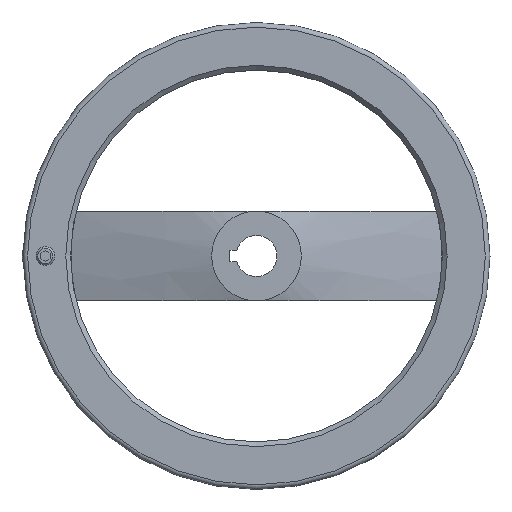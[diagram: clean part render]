
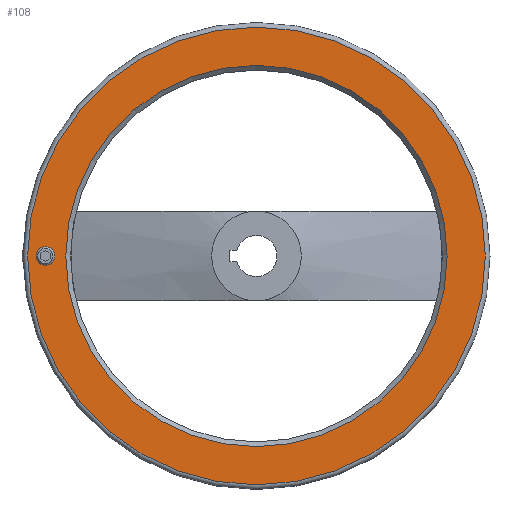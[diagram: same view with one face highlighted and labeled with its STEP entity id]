
A CAD part, left-side view. The second image highlights one B-rep face of the part: STEP entity #108.
In plain terms, the highlighted planar face has unit normal (-1, 0, 0).
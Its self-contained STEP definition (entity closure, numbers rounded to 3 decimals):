
#108 = ADVANCED_FACE( '', ( #197, #198, #199 ), #200, .T. );
#197 = FACE_OUTER_BOUND( '', #339, .T. );
#198 = FACE_BOUND( '', #340, .T. );
#199 = FACE_BOUND( '', #341, .T. );
#200 = PLANE( '', #342 );
#339 = EDGE_LOOP( '', ( #585 ) );
#340 = EDGE_LOOP( '', ( #586 ) );
#341 = EDGE_LOOP( '', ( #587 ) );
#342 = AXIS2_PLACEMENT_3D( '', #588, #589, #590 );
#585 = ORIENTED_EDGE( '', *, *, #709, .T. );
#586 = ORIENTED_EDGE( '', *, *, #677, .T. );
#587 = ORIENTED_EDGE( '', *, *, #707, .F. );
#588 = CARTESIAN_POINT( '', ( 28., -102.056, 0. ) );
#589 = DIRECTION( '', ( -1., 0., 0. ) );
#590 = DIRECTION( '', ( 0., 0., 1. ) );
#677 = EDGE_CURVE( '', #798, #798, #799, .T. );
#707 = EDGE_CURVE( '', #843, #843, #844, .T. );
#709 = EDGE_CURVE( '', #847, #847, #848, .T. );
#798 = VERTEX_POINT( '', #1098 );
#799 = CIRCLE( '', #1099, 5. );
#843 = VERTEX_POINT( '', #1157 );
#844 = CIRCLE( '', #1158, 102.056 );
#847 = VERTEX_POINT( '', #1161 );
#848 = CIRCLE( '', #1162, 122.5 );
#1098 = CARTESIAN_POINT( '', ( 28., 113., -5. ) );
#1099 = AXIS2_PLACEMENT_3D( '', #1222, #1223, #1224 );
#1157 = CARTESIAN_POINT( '', ( 28., 0., 102.056 ) );
#1158 = AXIS2_PLACEMENT_3D( '', #1281, #1282, #1283 );
#1161 = CARTESIAN_POINT( '', ( 28., 0., 122.5 ) );
#1162 = AXIS2_PLACEMENT_3D( '', #1287, #1288, #1289 );
#1222 = CARTESIAN_POINT( '', ( 28., 113., 0. ) );
#1223 = DIRECTION( '', ( 1., 0., 0. ) );
#1224 = DIRECTION( '', ( 0., 0., -1. ) );
#1281 = CARTESIAN_POINT( '', ( 28., 0., 0. ) );
#1282 = DIRECTION( '', ( -1., 0., 0. ) );
#1283 = DIRECTION( '', ( 0., 0., 1. ) );
#1287 = CARTESIAN_POINT( '', ( 28., 0., 0. ) );
#1288 = DIRECTION( '', ( -1., 0., 0. ) );
#1289 = DIRECTION( '', ( 0., 0., 1. ) );
